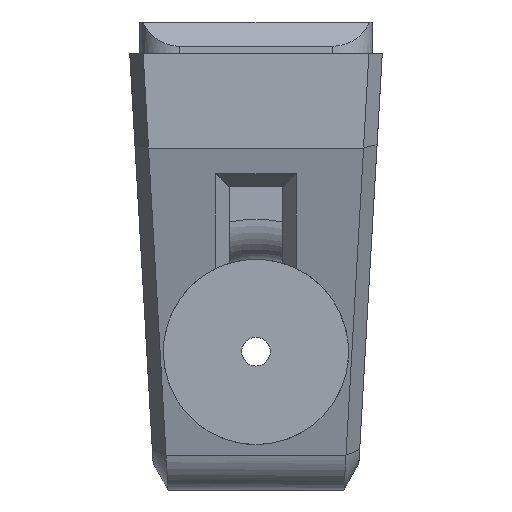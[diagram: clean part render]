
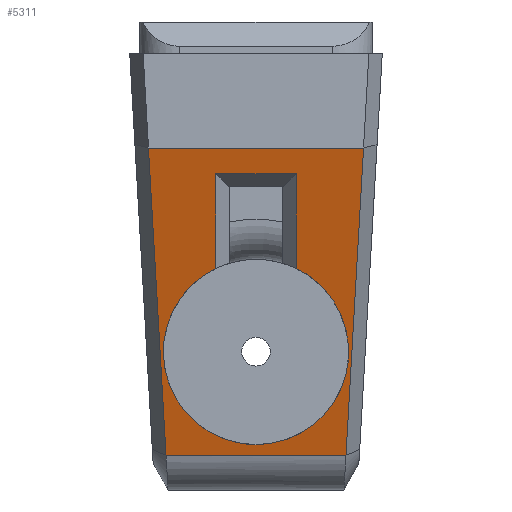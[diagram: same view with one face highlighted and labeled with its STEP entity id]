
A CAD part, front view. The second image highlights one B-rep face of the part: STEP entity #5311.
In plain terms, the highlighted planar face has unit normal (0, -0.966, -0.258).
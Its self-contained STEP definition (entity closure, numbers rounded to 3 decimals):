
#4223=CARTESIAN_POINT('',(-0.,59.895,-84.007));
#4224=VERTEX_POINT('',#4223);
#4233=CARTESIAN_POINT('',(6.05,52.832,-57.593));
#4234=VERTEX_POINT('',#4233);
#4235=CARTESIAN_POINT('',(-0.,59.895,-84.007));
#4236=CARTESIAN_POINT('',(11.076,59.895,-84.007));
#4237=CARTESIAN_POINT('',(13.549,57.008,-73.211));
#4238=CARTESIAN_POINT('',(16.022,54.121,-62.414));
#4239=CARTESIAN_POINT('',(6.05,52.832,-57.593));
#4240=(BOUNDED_CURVE()
B_SPLINE_CURVE(2,(#4235,#4236,#4237,#4238,#4239),.UNSPECIFIED.,.F.,.F.)
B_SPLINE_CURVE_WITH_KNOTS((3,2,3),(180.,257.099,334.199),.UNSPECIFIED.)
CURVE()
GEOMETRIC_REPRESENTATION_ITEM()
RATIONAL_B_SPLINE_CURVE((1.,0.782,1.,0.782,1.))
REPRESENTATION_ITEM(''));
#4241=EDGE_CURVE('',#4224,#4234,#4240,.T.);
#4276=CARTESIAN_POINT('',(-6.05,52.832,-57.593));
#4277=VERTEX_POINT('',#4276);
#4284=CARTESIAN_POINT('',(-6.05,52.832,-57.593));
#4285=CARTESIAN_POINT('',(-16.022,54.121,-62.414));
#4286=CARTESIAN_POINT('',(-13.549,57.008,-73.211));
#4287=CARTESIAN_POINT('',(-11.076,59.895,-84.007));
#4288=CARTESIAN_POINT('',(-0.,59.895,-84.007));
#4289=(BOUNDED_CURVE()
B_SPLINE_CURVE(2,(#4284,#4285,#4286,#4287,#4288),.UNSPECIFIED.,.F.,.F.)
B_SPLINE_CURVE_WITH_KNOTS((3,2,3),(25.801,102.901,180.),.UNSPECIFIED.)
CURVE()
GEOMETRIC_REPRESENTATION_ITEM()
RATIONAL_B_SPLINE_CURVE((1.,0.782,1.,0.782,1.))
REPRESENTATION_ITEM(''));
#4290=EDGE_CURVE('',#4277,#4224,#4289,.T.);
#5230=CARTESIAN_POINT('',(0.,34.935,9.341));
#5231=DIRECTION('',(0.,0.966,0.258));
#5232=DIRECTION('',(0.,-0.258,0.966));
#5233=AXIS2_PLACEMENT_3D('',#5230,#5231,#5232);
#5234=PLANE('',#5233);
#5235=ORIENTED_EDGE('',*,*,#4241,.F.);
#5236=ORIENTED_EDGE('',*,*,#4290,.F.);
#5237=CARTESIAN_POINT('',(-6.05,49.028,-43.368));
#5238=VERTEX_POINT('',#5237);
#5239=CARTESIAN_POINT('',(-6.05,52.832,-57.593));
#5240=DIRECTION('',(0.,-0.258,0.966));
#5241=VECTOR('',#5240,14.725);
#5242=LINE('',#5239,#5241);
#5243=EDGE_CURVE('',#4277,#5238,#5242,.T.);
#5244=ORIENTED_EDGE('',*,*,#5243,.T.);
#5245=CARTESIAN_POINT('',(6.05,49.028,-43.368));
#5246=VERTEX_POINT('',#5245);
#5247=CARTESIAN_POINT('',(-6.05,49.028,-43.368));
#5248=DIRECTION('',(1.,0.,-0.));
#5249=VECTOR('',#5248,12.1);
#5250=LINE('',#5247,#5249);
#5251=EDGE_CURVE('',#5238,#5246,#5250,.T.);
#5252=ORIENTED_EDGE('',*,*,#5251,.T.);
#5253=CARTESIAN_POINT('',(6.05,49.028,-43.368));
#5254=DIRECTION('',(-0.,0.258,-0.966));
#5255=VECTOR('',#5254,14.725);
#5256=LINE('',#5253,#5255);
#5257=EDGE_CURVE('',#5246,#4234,#5256,.T.);
#5258=ORIENTED_EDGE('',*,*,#5257,.T.);
#5259=EDGE_LOOP('',(#5235,#5236,#5244,#5252,#5258));
#5260=FACE_BOUND('',#5259,.T.);
#5261=CARTESIAN_POINT('',(16.128,48.,-39.522));
#5262=VERTEX_POINT('',#5261);
#5263=CARTESIAN_POINT('',(-16.128,48.,-39.522));
#5264=VERTEX_POINT('',#5263);
#5265=CARTESIAN_POINT('',(16.128,48.,-39.522));
#5266=DIRECTION('',(-1.,-0.,0.));
#5267=VECTOR('',#5266,32.256);
#5268=LINE('',#5265,#5267);
#5269=EDGE_CURVE('',#5262,#5264,#5268,.T.);
#5270=ORIENTED_EDGE('',*,*,#5269,.T.);
#5271=CARTESIAN_POINT('',(-16.128,48.,-39.523));
#5272=VERTEX_POINT('',#5271);
#5273=CARTESIAN_POINT('',(-16.128,48.,-39.522));
#5274=DIRECTION('',(-0.074,0.258,-0.963));
#5275=VECTOR('',#5274,0.002);
#5276=LINE('',#5273,#5275);
#5277=EDGE_CURVE('',#5264,#5272,#5276,.T.);
#5278=ORIENTED_EDGE('',*,*,#5277,.T.);
#5279=CARTESIAN_POINT('',(-13.494,60.328,-85.63));
#5280=VERTEX_POINT('',#5279);
#5281=CARTESIAN_POINT('',(-16.128,48.,-39.523));
#5282=DIRECTION('',(0.055,0.258,-0.965));
#5283=VECTOR('',#5282,47.799);
#5284=LINE('',#5281,#5283);
#5285=EDGE_CURVE('',#5272,#5280,#5284,.T.);
#5286=ORIENTED_EDGE('',*,*,#5285,.T.);
#5287=CARTESIAN_POINT('',(13.493,60.328,-85.63));
#5288=VERTEX_POINT('',#5287);
#5289=CARTESIAN_POINT('',(-13.494,60.328,-85.63));
#5290=DIRECTION('',(1.,0.,-0.));
#5291=VECTOR('',#5290,26.986);
#5292=LINE('',#5289,#5291);
#5293=EDGE_CURVE('',#5280,#5288,#5292,.T.);
#5294=ORIENTED_EDGE('',*,*,#5293,.T.);
#5295=CARTESIAN_POINT('',(16.128,48.,-39.523));
#5296=VERTEX_POINT('',#5295);
#5297=CARTESIAN_POINT('',(13.494,60.328,-85.63));
#5298=DIRECTION('',(0.055,-0.258,0.965));
#5299=VECTOR('',#5298,47.799);
#5300=LINE('',#5297,#5299);
#5301=EDGE_CURVE('',#5288,#5296,#5300,.T.);
#5302=ORIENTED_EDGE('',*,*,#5301,.T.);
#5303=CARTESIAN_POINT('',(16.128,48.,-39.523));
#5304=DIRECTION('',(-0.074,-0.258,0.963));
#5305=VECTOR('',#5304,0.002);
#5306=LINE('',#5303,#5305);
#5307=EDGE_CURVE('',#5296,#5262,#5306,.T.);
#5308=ORIENTED_EDGE('',*,*,#5307,.T.);
#5309=EDGE_LOOP('',(#5270,#5278,#5286,#5294,#5302,#5308));
#5310=FACE_BOUND('',#5309,.T.);
#5311=ADVANCED_FACE('',(#5260,#5310),#5234,.F.);
